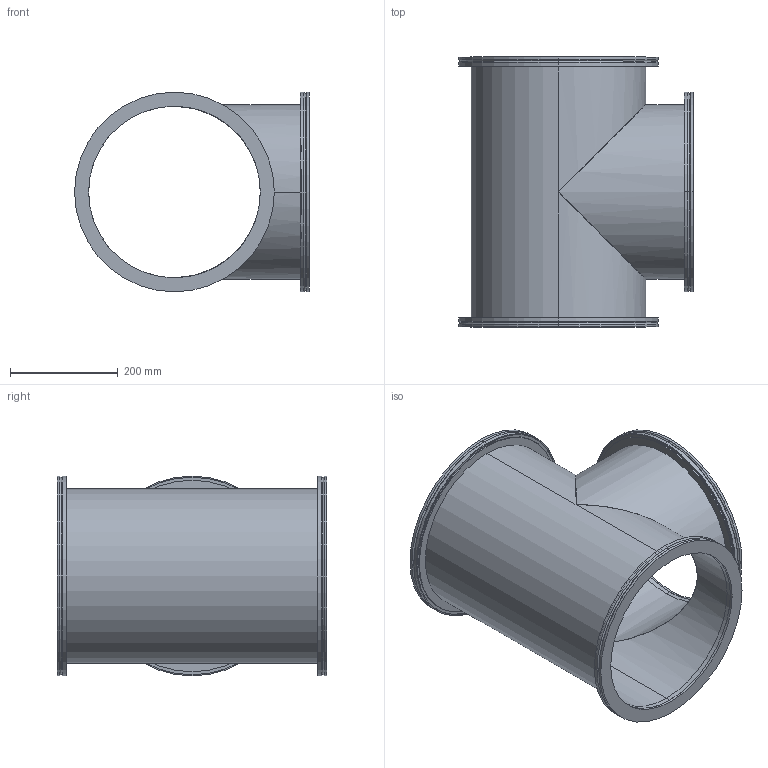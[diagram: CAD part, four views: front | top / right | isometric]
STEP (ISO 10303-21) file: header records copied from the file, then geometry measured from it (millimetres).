
FILE_DESCRIPTION (( 'STEP AP214' ), '1' );
FILE_NAME ('W4TS320.STEP', '2020-10-13T07:38:46', ( '' ), ( '' ), 'SwSTEP 2.0', 'SolidWorks 2020', '' );
FILE_SCHEMA (( 'AUTOMOTIVE_DESIGN' ));
Length unit declared in the file: millimetre
Products named in the file (1): W4TS320
Bounding box: 435 x 500 x 370 mm (x, y, z)
Volume: 2858988.9 mm3; surface area: 1341902.8 mm2
Topology: 5 solids, 5 shells, 89 faces, 184 edges, 114 vertices
Faces by surface type: cylinder 52, plane 25, torus 12
Entity records: 2478 total; most frequent: DIRECTION 466, CARTESIAN_POINT 424, ORIENTED_EDGE 368, AXIS2_PLACEMENT_3D 204, EDGE_CURVE 184, VERTEX_POINT 114, CIRCLE 114, EDGE_LOOP 110
